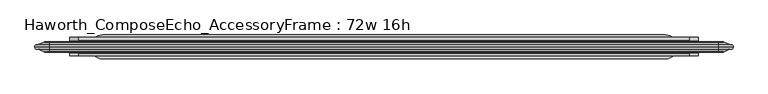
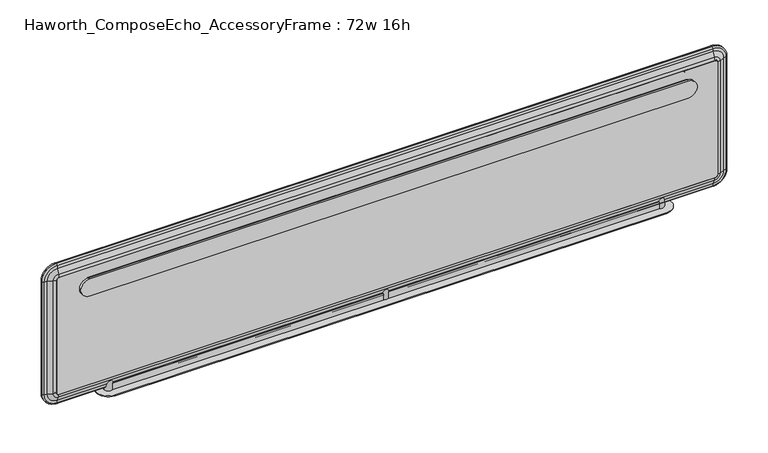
"""IFC4 building model written with IfcOpenShell, lengths in millimetres: furniture geometry, Haworth_ComposeEcho_AccessoryFrame : 72w 16h."""

from ifc_helpers import new_model, si_unit, point, frame, frame_2d, origin, place, context, project, spatial, polyline, circle_curve, ellipse_curve, trimmed, segment, composite_curve, outline, extrude, source, transform, mapped, element, save
from ifc_brep_helpers import plane_surface, cylinder_surface, revolved_surface, advanced_brep


def haworth_composeecho_accessoryframe_72w_16h_583df38f(model_context):
    return source(origin(), model_context, "Body", "SolidModel", [
        extrude(outline(composite_curve([segment(trimmed(circle_curve(frame_2d((1432.9130983, -873.8759879)), 6.3337219), [point((1439.2468202, -873.8759879))], [point((1432.9130983, -880.2097098))], False, "CARTESIAN"), True, "CONTINUOUS"), segment(polyline([(1432.9130983, -880.2097098), (1115.0680007, -880.2097098)]), True, "CONTINUOUS"), segment(trimmed(circle_curve(frame_2d((1115.0680007, -873.8597098)), 6.35), [point((1115.0680007, -880.2097098))], [point((1108.7180007, -873.8597098))], False, "CARTESIAN"), True, "CONTINUOUS"), segment(polyline([(1108.7180007, -873.8597098), (1108.7180007, 878.7402902)]), True, "CONTINUOUS"), segment(trimmed(circle_curve(frame_2d((1115.0680007, 878.7402902)), 6.35), [point((1108.7180007, 878.7402902))], [point((1115.0680007, 885.0902902))], False, "CARTESIAN"), True, "CONTINUOUS"), segment(polyline([(1115.0680007, 885.0902902), (1432.9130983, 885.0902902)]), True, "CONTINUOUS"), segment(trimmed(circle_curve(frame_2d((1432.9130983, 878.7565682)), 6.3337219), [point((1432.9130983, 885.0902902))], [point((1439.2468202, 878.7565682))], False, "CARTESIAN"), True, "CONTINUOUS"), segment(polyline([(1439.2468202, 878.7565682), (1439.2468202, -873.8759879)]), True, "CONTINUOUS")], self_intersect=False)), frame((0.0, -14.2419601, 0.0), z_axis=(0.0, 1.0, 0.0), x_axis=(0.0, 0.0, 1.0)), (0.0, 0.0, 1.0), 28.3652874),
        advanced_brep(
        [(913.9741083, 5.6620988, 1432.9130983), (878.7563745, 5.6620988, 1468.1308321), (878.7563745, 0.0, 1470.6517609), (916.495037, 0.0, 1432.9130983), (906.5453032, 6.4813873, 1432.9130983), (878.7563745, 6.4813873, 1460.7020271), (916.495037, 0.0, 1115.0680007), (913.9741083, 5.6620988, 1115.0680007), (906.5453032, 6.4813873, 1115.0680007), (878.7400964, 5.6620988, 1079.8339888), (878.7400964, 0.0, 1077.31306), (878.7400964, 6.4813873, 1087.2627938), (-873.8597098, 0.0, 1077.31306), (-873.8597098, 5.6620988, 1079.8339888), (-873.8597098, 6.4813873, 1087.2627938), (-909.0937217, 5.6620988, 1115.0680007), (-911.6146505, 0.0, 1115.0680007), (-901.6649167, 6.4813873, 1115.0680007), (-911.6146505, 0.0, 1432.9130983), (-909.0937217, 5.6620988, 1432.9130983), (-901.6649167, 6.4813873, 1432.9130983), (-873.8759879, 5.6620988, 1468.1308321), (-873.8759879, 0.0, 1470.6517609), (-873.8759879, 6.4813873, 1460.7020271), (-880.2097098, 0.0, 1115.0680007), (-880.2097098, 0.0, 1432.9130983), (-873.8759879, 0.0, 1439.2468202), (878.7563745, 0.0, 1439.2468202), (885.0900964, 0.0, 1432.9130983), (885.0900964, 0.0, 1115.0680007), (878.7400964, 0.0, 1108.7180007), (-873.8597098, 0.0, 1108.7180007), (878.7563745, 14.1233272, 1439.2468202), (885.0900964, 14.1233272, 1432.9130983), (878.7563745, 12.0676743, 1447.3253), (893.1685761, 12.0676743, 1432.9130983), (885.0900964, 14.1233272, 1115.0680007), (893.1685761, 12.0676743, 1115.0680007), (878.7400964, 14.1233272, 1108.7180007), (878.7400964, 12.0676743, 1100.6395209), (-873.8597098, 14.1233272, 1108.7180007), (-873.8597098, 12.0676743, 1100.6395209), (-880.2097098, 14.1233272, 1115.0680007), (-888.2881896, 12.0676743, 1115.0680007), (-880.2097098, 14.1233272, 1432.9130983), (-888.2881896, 12.0676743, 1432.9130983), (-873.8759879, 14.1233272, 1439.2468202), (-873.8759879, 12.0676743, 1447.3253)],
        [
            (0, 1, circle_curve(frame((878.7563745, 5.6620988, 1432.9130983), z_axis=(0.0, -1.0, 0.0), x_axis=(0.0, 0.0, 1.0)), 35.2177338)),
            (1, 2, circle_curve(frame((878.7563745, 1.6343332, 1466.7034279), z_axis=(1.0, 0.0, 0.0), x_axis=(0.0, 0.0, -1.0)), 4.2732164)),
            (2, 3, circle_curve(frame((878.7563745, 0.0, 1432.9130983), z_axis=(0.0, 1.0, 0.0), x_axis=(0.0, 0.0, 1.0)), 37.7386626)),
            (3, 0, circle_curve(frame((912.5467041, 1.6343332, 1432.9130983), z_axis=(0.0, 0.0, 1.0), x_axis=(-1.0, 0.0, 0.0)), 4.2732164)),
            (4, 5, circle_curve(frame((878.7563745, 6.4813873, 1432.9130983), z_axis=(0.0, -1.0, 0.0), x_axis=(0.0, 0.0, 1.0)), 27.7889288)),
            (5, 1),
            (0, 4),
            (3, 6),
            (6, 7, circle_curve(frame((912.5467041, 1.6343332, 1115.0680007), z_axis=(0.0, 0.0, 1.0), x_axis=(-1.0, 0.0, 0.0)), 4.2732164)),
            (7, 0),
            (7, 8),
            (8, 4),
            (9, 7, circle_curve(frame((878.7400964, 5.6620988, 1115.0680007), z_axis=(0.0, -1.0, 0.0), x_axis=(1.0, 0.0, 0.0)), 35.2340119)),
            (6, 10, circle_curve(frame((878.7400964, 0.0, 1115.0680007), z_axis=(0.0, 1.0, 0.0), x_axis=(1.0, 0.0, 0.0)), 37.7549407)),
            (10, 9, circle_curve(frame((878.7400964, 1.6343332, 1081.261393), z_axis=(1.0, 0.0, 0.0), x_axis=(0.0, 0.0, 1.0)), 4.2732164)),
            (11, 8, circle_curve(frame((878.7400964, 6.4813873, 1115.0680007), z_axis=(0.0, -1.0, 0.0), x_axis=(1.0, 0.0, 0.0)), 27.8052069)),
            (9, 11),
            (10, 12),
            (12, 13, circle_curve(frame((-873.8597098, 1.6343332, 1081.261393), z_axis=(1.0, 0.0, 0.0), x_axis=(0.0, 0.0, 1.0)), 4.2732164)),
            (13, 9),
            (13, 14),
            (14, 11),
            (15, 13, circle_curve(frame((-873.8597098, 5.6620988, 1115.0680007), z_axis=(0.0, -1.0, 0.0), x_axis=(0.0, 0.0, -1.0)), 35.2340119)),
            (12, 16, circle_curve(frame((-873.8597098, 0.0, 1115.0680007), z_axis=(0.0, 1.0, 0.0), x_axis=(0.0, 0.0, -1.0)), 37.7549407)),
            (16, 15, circle_curve(frame((-907.6663175, 1.6343332, 1115.0680007), z_axis=(0.0, 0.0, -1.0), x_axis=(1.0, 0.0, 0.0)), 4.2732164)),
            (17, 14, circle_curve(frame((-873.8597098, 6.4813873, 1115.0680007), z_axis=(0.0, -1.0, 0.0), x_axis=(0.0, 0.0, -1.0)), 27.8052069)),
            (15, 17),
            (16, 18),
            (18, 19, circle_curve(frame((-907.6663175, 1.6343332, 1432.9130983), z_axis=(0.0, 0.0, -1.0), x_axis=(1.0, 0.0, 0.0)), 4.2732164)),
            (19, 15),
            (19, 20),
            (20, 17),
            (21, 19, circle_curve(frame((-873.8759879, 5.6620988, 1432.9130983), z_axis=(0.0, -1.0, 0.0), x_axis=(-1.0, 0.0, 0.0)), 35.2177338)),
            (18, 22, circle_curve(frame((-873.8759879, 0.0, 1432.9130983), z_axis=(0.0, 1.0, 0.0), x_axis=(-1.0, 0.0, 0.0)), 37.7386626)),
            (22, 21, circle_curve(frame((-873.8759879, 1.6343332, 1466.7034279), z_axis=(-1.0, 0.0, 0.0), x_axis=(0.0, 0.0, -1.0)), 4.2732164)),
            (23, 20, circle_curve(frame((-873.8759879, 6.4813873, 1432.9130983), z_axis=(0.0, -1.0, 0.0), x_axis=(-1.0, 0.0, 0.0)), 27.7889288)),
            (21, 23),
            (22, 2),
            (1, 21),
            (24, 25),
            (25, 26, circle_curve(frame((-873.8759879, 0.0, 1432.9130983), z_axis=(0.0, 1.0, 0.0), x_axis=(-1.0, 0.0, 0.0)), 6.3337219)),
            (26, 27),
            (27, 28, circle_curve(frame((878.7563745, 0.0, 1432.9130983), z_axis=(0.0, 1.0, 0.0), x_axis=(0.0, 0.0, 1.0)), 6.3337219)),
            (28, 29),
            (29, 30, circle_curve(frame((878.7400964, 0.0, 1115.0680007), z_axis=(0.0, 1.0, 0.0), x_axis=(1.0, 0.0, 0.0)), 6.35)),
            (30, 31),
            (31, 24, circle_curve(frame((-873.8597098, 0.0, 1115.0680007), z_axis=(0.0, 1.0, 0.0), x_axis=(0.0, 0.0, -1.0)), 6.35)),
            (5, 23),
            (27, 32),
            (32, 33, circle_curve(frame((878.7563745, 14.1233272, 1432.9130983), z_axis=(0.0, 1.0, 0.0), x_axis=(0.0, 0.0, 1.0)), 6.3337219)),
            (33, 28),
            (32, 34, circle_curve(frame((878.7563745, -7.831597, 1437.960943), z_axis=(1.0, 0.0, 0.0), x_axis=(0.0, 0.0, -1.0)), 21.9925482)),
            (34, 35, circle_curve(frame((878.7563745, 12.0676743, 1432.9130983), z_axis=(0.0, 1.0, 0.0), x_axis=(0.0, 0.0, 1.0)), 14.4122017)),
            (35, 33, circle_curve(frame((883.8042192, -7.831597, 1432.9130983), z_axis=(0.0, 0.0, 1.0), x_axis=(-1.0, 0.0, 0.0)), 21.9925482)),
            (34, 5, circle_curve(frame((878.7563745, 160.3401291, 1517.1005285), z_axis=(-1.0, 0.0, 0.0), x_axis=(0.0, 0.0, -1.0)), 163.8697757)),
            (4, 35, circle_curve(frame((962.9438047, 160.3401291, 1432.9130983), z_axis=(0.0, 0.0, -1.0), x_axis=(-1.0, 0.0, 0.0)), 163.8697757)),
            (33, 36),
            (36, 29),
            (35, 37),
            (37, 36, circle_curve(frame((883.8042192, -7.831597, 1115.0680007), z_axis=(0.0, 0.0, 1.0), x_axis=(-1.0, 0.0, 0.0)), 21.9925482)),
            (8, 37, circle_curve(frame((962.9438047, 160.3401291, 1115.0680007), z_axis=(0.0, 0.0, -1.0), x_axis=(-1.0, 0.0, 0.0)), 163.8697757)),
            (36, 38, circle_curve(frame((878.7400964, 14.1233272, 1115.0680007), z_axis=(0.0, 1.0, 0.0), x_axis=(1.0, 0.0, 0.0)), 6.35)),
            (38, 30),
            (37, 39, circle_curve(frame((878.7400964, 12.0676743, 1115.0680007), z_axis=(0.0, 1.0, 0.0), x_axis=(1.0, 0.0, 0.0)), 14.4284798)),
            (39, 38, circle_curve(frame((878.7400964, -7.831597, 1110.0038779), z_axis=(1.0, 0.0, 0.0), x_axis=(0.0, 0.0, 1.0)), 21.9925482)),
            (11, 39, circle_curve(frame((878.7400964, 160.3401291, 1030.8642924), z_axis=(-1.0, 0.0, 0.0), x_axis=(0.0, 0.0, 1.0)), 163.8697757)),
            (38, 40),
            (40, 31),
            (39, 41),
            (41, 40, circle_curve(frame((-873.8597098, -7.831597, 1110.0038779), z_axis=(1.0, 0.0, 0.0), x_axis=(0.0, 0.0, 1.0)), 21.9925482)),
            (14, 41, circle_curve(frame((-873.8597098, 160.3401291, 1030.8642924), z_axis=(-1.0, 0.0, 0.0), x_axis=(0.0, 0.0, 1.0)), 163.8697757)),
            (40, 42, circle_curve(frame((-873.8597098, 14.1233272, 1115.0680007), z_axis=(0.0, 1.0, 0.0), x_axis=(0.0, 0.0, -1.0)), 6.35)),
            (42, 24),
            (41, 43, circle_curve(frame((-873.8597098, 12.0676743, 1115.0680007), z_axis=(0.0, 1.0, 0.0), x_axis=(0.0, 0.0, -1.0)), 14.4284798)),
            (43, 42, circle_curve(frame((-878.9238326, -7.831597, 1115.0680007), z_axis=(0.0, 0.0, -1.0), x_axis=(1.0, 0.0, 0.0)), 21.9925482)),
            (17, 43, circle_curve(frame((-958.0634181, 160.3401291, 1115.0680007), z_axis=(0.0, 0.0, 1.0), x_axis=(1.0, 0.0, 0.0)), 163.8697757)),
            (42, 44),
            (44, 25),
            (43, 45),
            (45, 44, circle_curve(frame((-878.9238326, -7.831597, 1432.9130983), z_axis=(0.0, 0.0, -1.0), x_axis=(1.0, 0.0, 0.0)), 21.9925482)),
            (20, 45, circle_curve(frame((-958.0634181, 160.3401291, 1432.9130983), z_axis=(0.0, 0.0, 1.0), x_axis=(1.0, 0.0, 0.0)), 163.8697757)),
            (44, 46, circle_curve(frame((-873.8759879, 14.1233272, 1432.9130983), z_axis=(0.0, 1.0, 0.0), x_axis=(-1.0, 0.0, 0.0)), 6.3337219)),
            (46, 26),
            (45, 47, circle_curve(frame((-873.8759879, 12.0676743, 1432.9130983), z_axis=(0.0, 1.0, 0.0), x_axis=(-1.0, 0.0, 0.0)), 14.4122017)),
            (47, 46, circle_curve(frame((-873.8759879, -7.831597, 1437.960943), z_axis=(-1.0, 0.0, 0.0), x_axis=(0.0, 0.0, -1.0)), 21.9925482)),
            (23, 47, circle_curve(frame((-873.8759879, 160.3401291, 1517.1005285), z_axis=(1.0, 0.0, 0.0), x_axis=(0.0, 0.0, -1.0)), 163.8697757)),
            (46, 32),
            (47, 34),
        ],
        [
            revolved_surface(trimmed(ellipse_curve(frame((878.7563745, 1.6343332, 1466.7034279), z_axis=(-1.0, 0.0, 0.0), x_axis=(0.0, 0.0, -1.0)), 4.2732164, 4.2732164), [point((878.7563745, 0.0, 1470.6517609))], [point((878.7563745, 5.6620988, 1468.1308321))], True, "CARTESIAN"), (878.7563745, 0.0, 1432.9130983), (0.0, 1.0, 0.0)),
            revolved_surface(polyline([(878.7563745, 5.6620988, 1468.1308321), (878.7563745, 6.4813873, 1460.7020271)]), (878.7563745, 0.0, 1432.9130983), (0.0, 1.0, 0.0)),
            cylinder_surface(frame((912.5467041, 1.6343332, 1432.9130983), z_axis=(0.0, 0.0, 1.0), x_axis=(-1.0, 0.0, 0.0)), 4.2732164),
            plane_surface(frame((913.9741083, 5.6620988, 1432.9130983), z_axis=(0.10962074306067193, 0.9939734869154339, 0.0), x_axis=(0.0, 0.0, -1.0))),
            revolved_surface(trimmed(ellipse_curve(frame((912.5467041, 1.6343332, 1115.0680007), z_axis=(0.0, 0.0, 1.0), x_axis=(-1.0, 0.0, 0.0)), 4.2732164, 4.2732164), [point((916.495037, 0.0, 1115.0680007))], [point((913.9741083, 5.6620988, 1115.0680007))], True, "CARTESIAN"), (878.7400964, 0.0, 1115.0680007), (0.0, 1.0, 0.0)),
            revolved_surface(polyline([(913.9741083, 5.6620988, 1115.0680007), (906.5453032, 6.4813873, 1115.0680007)]), (878.7400964, 0.0, 1115.0680007), (0.0, 1.0, 0.0)),
            cylinder_surface(frame((878.7400964, 1.6343332, 1081.261393), z_axis=(1.0, 0.0, 0.0), x_axis=(0.0, 0.0, 1.0)), 4.2732164),
            plane_surface(frame((878.7400964, 5.6620988, 1079.8339888), z_axis=(0.0, 0.9939734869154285, -0.109620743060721), x_axis=(-1.0, 0.0, 0.0))),
            revolved_surface(trimmed(ellipse_curve(frame((-873.8597098, 1.6343332, 1081.261393), z_axis=(1.0, 0.0, 0.0), x_axis=(0.0, 0.0, 1.0)), 4.2732164, 4.2732164), [point((-873.8597098, 0.0, 1077.31306))], [point((-873.8597098, 5.6620988, 1079.8339888))], True, "CARTESIAN"), (-873.8597098, 0.0, 1115.0680007), (0.0, 1.0, 0.0)),
            revolved_surface(polyline([(-873.8597098, 5.6620988, 1079.8339888), (-873.8597098, 6.4813873, 1087.2627938)]), (-873.8597098, 0.0, 1115.0680007), (0.0, 1.0, 0.0)),
            cylinder_surface(frame((-907.6663175, 1.6343332, 1115.0680007), z_axis=(0.0, 0.0, -1.0), x_axis=(1.0, 0.0, 0.0)), 4.2732164),
            plane_surface(frame((-909.0937217, 5.6620988, 1115.0680007), z_axis=(-0.10962074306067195, 0.993973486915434, 0.0), x_axis=(0.0, 0.0, 1.0))),
            revolved_surface(trimmed(ellipse_curve(frame((-907.6663175, 1.6343332, 1432.9130983), z_axis=(0.0, 0.0, -1.0), x_axis=(1.0, 0.0, 0.0)), 4.2732164, 4.2732164), [point((-911.6146505, 0.0, 1432.9130983))], [point((-909.0937217, 5.6620988, 1432.9130983))], True, "CARTESIAN"), (-873.8759879, 0.0, 1432.9130983), (0.0, 1.0, 0.0)),
            revolved_surface(polyline([(-909.0937217, 5.6620988, 1432.9130983), (-901.6649167, 6.4813873, 1432.9130983)]), (-873.8759879, 0.0, 1432.9130983), (0.0, 1.0, 0.0)),
            cylinder_surface(frame((-873.8759879, 1.6343332, 1466.7034279), z_axis=(-1.0, 0.0, 0.0), x_axis=(0.0, 0.0, -1.0)), 4.2732164),
            plane_surface(frame((-873.8759879, 0.0, 1439.2468202), z_axis=(0.0, -1.0, 0.0), x_axis=(1.0, 0.0, 0.0))),
            plane_surface(frame((-873.8759879, 5.6620988, 1468.1308321), z_axis=(0.0, 0.9939734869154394, 0.10962074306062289), x_axis=(1.0, 0.0, 0.0))),
            revolved_surface(polyline([(878.7563745, 14.1233272, 1439.2468202), (878.7563745, 0.0, 1439.2468202)]), (878.7563745, 0.0, 1432.9130983), (0.0, 1.0, 0.0)),
            revolved_surface(trimmed(ellipse_curve(frame((878.7563745, -7.831597, 1437.960943), z_axis=(-1.0, 0.0, 0.0), x_axis=(0.0, 0.0, -1.0)), 21.9925482, 21.9925482), [point((878.7563745, 12.0676743, 1447.3253))], [point((878.7563745, 14.1233272, 1439.2468202))], True, "CARTESIAN"), (878.7563745, 0.0, 1432.9130983), (0.0, 1.0, 0.0)),
            revolved_surface(trimmed(ellipse_curve(frame((878.7563745, 160.3401291, 1517.1005285), z_axis=(1.0, 0.0, 0.0), x_axis=(0.0, 0.0, -1.0)), 163.8697757, 163.8697757), [point((878.7563745, 6.4813873, 1460.7020271))], [point((878.7563745, 12.0676743, 1447.3253))], True, "CARTESIAN"), (878.7563745, 0.0, 1432.9130983), (0.0, 1.0, 0.0)),
            plane_surface(frame((885.0900964, 14.1233272, 1432.9130983), z_axis=(-1.0, 0.0, 0.0), x_axis=(0.0, 0.0, -1.0))),
            cylinder_surface(frame((883.8042192, -7.831597, 1432.9130983), z_axis=(0.0, 0.0, 1.0), x_axis=(-1.0, 0.0, 0.0)), 21.9925482),
            revolved_surface(polyline([(799.074029, 160.3401291, 1115.0680007), (799.074029, 160.3401291, 1432.9130983)]), (962.9438047, 160.3401291, 1432.9130983), (0.0, 0.0, -1.0)),
            revolved_surface(polyline([(885.0900964, 14.1233272, 1115.0680007), (885.0900964, 0.0, 1115.0680007)]), (878.7400964, 0.0, 1115.0680007), (0.0, 1.0, 0.0)),
            revolved_surface(trimmed(ellipse_curve(frame((883.8042192, -7.831597, 1115.0680007), z_axis=(0.0, 0.0, 1.0), x_axis=(-1.0, 0.0, 0.0)), 21.9925482, 21.9925482), [point((893.1685761, 12.0676743, 1115.0680007))], [point((885.0900964, 14.1233272, 1115.0680007))], True, "CARTESIAN"), (878.7400964, 0.0, 1115.0680007), (0.0, 1.0, 0.0)),
            revolved_surface(trimmed(ellipse_curve(frame((962.9438047, 160.3401291, 1115.0680007), z_axis=(0.0, 0.0, -1.0), x_axis=(-1.0, 0.0, 0.0)), 163.8697757, 163.8697757), [point((906.5453032, 6.4813873, 1115.0680007))], [point((893.1685761, 12.0676743, 1115.0680007))], True, "CARTESIAN"), (878.7400964, 0.0, 1115.0680007), (0.0, 1.0, 0.0)),
            plane_surface(frame((878.7400964, 14.1233272, 1108.7180007), z_axis=(0.0, 0.0, 1.0), x_axis=(-1.0, 0.0, 0.0))),
            cylinder_surface(frame((878.7400964, -7.831597, 1110.0038779), z_axis=(1.0, 0.0, 0.0), x_axis=(0.0, 0.0, 1.0)), 21.9925482),
            revolved_surface(polyline([(-873.8597097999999, 160.3401291, 1194.7340681), (878.7400964, 160.3401291, 1194.7340681)]), (878.7400964, 160.3401291, 1030.8642924), (-1.0, 0.0, 0.0)),
            revolved_surface(polyline([(-873.8597098, 14.1233272, 1108.7180007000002), (-873.8597098, 0.0, 1108.7180007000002)]), (-873.8597098, 0.0, 1115.0680007), (0.0, 1.0, 0.0)),
            revolved_surface(trimmed(ellipse_curve(frame((-873.8597098, -7.831597, 1110.0038779), z_axis=(1.0, 0.0, 0.0), x_axis=(0.0, 0.0, 1.0)), 21.9925482, 21.9925482), [point((-873.8597098, 12.0676743, 1100.6395209))], [point((-873.8597098, 14.1233272, 1108.7180007))], True, "CARTESIAN"), (-873.8597098, 0.0, 1115.0680007), (0.0, 1.0, 0.0)),
            revolved_surface(trimmed(ellipse_curve(frame((-873.8597098, 160.3401291, 1030.8642924), z_axis=(-1.0, 0.0, 0.0), x_axis=(0.0, 0.0, 1.0)), 163.8697757, 163.8697757), [point((-873.8597098, 6.4813873, 1087.2627938))], [point((-873.8597098, 12.0676743, 1100.6395209))], True, "CARTESIAN"), (-873.8597098, 0.0, 1115.0680007), (0.0, 1.0, 0.0)),
            plane_surface(frame((-880.2097098, 14.1233272, 1115.0680007), z_axis=(1.0, 0.0, 0.0), x_axis=(0.0, 0.0, 1.0))),
            cylinder_surface(frame((-878.9238326, -7.831597, 1115.0680007), z_axis=(0.0, 0.0, -1.0), x_axis=(1.0, 0.0, 0.0)), 21.9925482),
            revolved_surface(polyline([(-794.1936424, 160.3401291, 1432.9130983), (-794.1936424, 160.3401291, 1115.0680007)]), (-958.0634181, 160.3401291, 1115.0680007), (0.0, 0.0, 1.0)),
            revolved_surface(polyline([(-880.2097098, 14.1233272, 1432.9130983), (-880.2097098, 0.0, 1432.9130983)]), (-873.8759879, 0.0, 1432.9130983), (0.0, 1.0, 0.0)),
            revolved_surface(trimmed(ellipse_curve(frame((-878.9238326, -7.831597, 1432.9130983), z_axis=(0.0, 0.0, -1.0), x_axis=(1.0, 0.0, 0.0)), 21.9925482, 21.9925482), [point((-888.2881896, 12.0676743, 1432.9130983))], [point((-880.2097098, 14.1233272, 1432.9130983))], True, "CARTESIAN"), (-873.8759879, 0.0, 1432.9130983), (0.0, 1.0, 0.0)),
            revolved_surface(trimmed(ellipse_curve(frame((-958.0634181, 160.3401291, 1432.9130983), z_axis=(0.0, 0.0, 1.0), x_axis=(1.0, 0.0, 0.0)), 163.8697757, 163.8697757), [point((-901.6649167, 6.4813873, 1432.9130983))], [point((-888.2881896, 12.0676743, 1432.9130983))], True, "CARTESIAN"), (-873.8759879, 0.0, 1432.9130983), (0.0, 1.0, 0.0)),
            plane_surface(frame((-873.8759879, 14.1233272, 1439.2468202), z_axis=(0.0, 0.0, -1.0), x_axis=(1.0, 0.0, 0.0))),
            cylinder_surface(frame((-873.8759879, -7.831597, 1437.960943), z_axis=(-1.0, 0.0, 0.0), x_axis=(0.0, 0.0, -1.0)), 21.9925482),
            revolved_surface(polyline([(878.7563745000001, 160.3401291, 1353.2307528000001), (-873.8759879, 160.3401291, 1353.2307528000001)]), (-873.8759879, 160.3401291, 1517.1005285), (1.0, 0.0, 0.0)),
        ],
        [
            (0, [[1, 2, 3, 4]]),
            (1, [[5, 6, -1, 7]]),
            (2, [[-4, 8, 9, 10]]),
            (3, [[-7, -10, 11, 12]]),
            (4, [[13, -9, 14, 15]]),
            (5, [[16, -11, -13, 17]]),
            (6, [[-15, 18, 19, 20]]),
            (7, [[-17, -20, 21, 22]]),
            (8, [[23, -19, 24, 25]]),
            (9, [[26, -21, -23, 27]]),
            (10, [[-25, 28, 29, 30]]),
            (11, [[-27, -30, 31, 32]]),
            (12, [[33, -29, 34, 35]]),
            (13, [[36, -31, -33, 37]]),
            (14, [[-35, 38, -2, 39]]),
            (15, [[-38, -34, -28, -24, -18, -14, -8, -3], [40, 41, 42, 43, 44, 45, 46, 47]]),
            (16, [[-37, -39, -6, 48]]),
            (17, [[-43, 49, 50, 51]]),
            (18, [[-50, 52, 53, 54]]),
            (19, [[-53, 55, -5, 56]]),
            (20, [[-51, 57, 58, -44]]),
            (21, [[-54, 59, 60, -57]]),
            (22, [[-56, -12, 61, -59]]),
            (23, [[-45, -58, 62, 63]]),
            (24, [[-62, -60, 64, 65]]),
            (25, [[-64, -61, -16, 66]]),
            (26, [[-63, 67, 68, -46]]),
            (27, [[-65, 69, 70, -67]]),
            (28, [[-66, -22, 71, -69]]),
            (29, [[-47, -68, 72, 73]]),
            (30, [[-72, -70, 74, 75]]),
            (31, [[-74, -71, -26, 76]]),
            (32, [[-73, 77, 78, -40]]),
            (33, [[-75, 79, 80, -77]]),
            (34, [[-76, -32, 81, -79]]),
            (35, [[-41, -78, 82, 83]]),
            (36, [[-82, -80, 84, 85]]),
            (37, [[-84, -81, -36, 86]]),
            (38, [[-83, 87, -49, -42]]),
            (39, [[-85, 88, -52, -87]]),
            (40, [[-86, -48, -55, -88]]),
        ],
    ),
        advanced_brep(
        [(916.495037, 0.0, 1432.9130983), (878.7563745, 0.0, 1470.6517609), (878.7563745, -5.6620988, 1468.1308321), (913.9741083, -5.6620988, 1432.9130983), (878.7563745, -6.4813873, 1460.7020271), (906.5453032, -6.4813873, 1432.9130983), (913.9741083, -5.6620988, 1115.0680007), (916.495037, 0.0, 1115.0680007), (906.5453032, -6.4813873, 1115.0680007), (878.7400964, 0.0, 1077.31306), (878.7400964, -5.6620988, 1079.8339888), (878.7400964, -6.4813873, 1087.2627938), (-873.8597098, -5.6620988, 1079.8339888), (-873.8597098, 0.0, 1077.31306), (-873.8597098, -6.4813873, 1087.2627938), (-911.6146505, 0.0, 1115.0680007), (-909.0937217, -5.6620988, 1115.0680007), (-901.6649167, -6.4813873, 1115.0680007), (-909.0937217, -5.6620988, 1432.9130983), (-911.6146505, 0.0, 1432.9130983), (-901.6649167, -6.4813873, 1432.9130983), (-873.8759879, 0.0, 1470.6517609), (-873.8759879, -5.6620988, 1468.1308321), (-873.8759879, -6.4813873, 1460.7020271), (878.7563745, 0.0, 1439.2468202), (-873.8759879, 0.0, 1439.2468202), (-880.2097098, 0.0, 1432.9130983), (-880.2097098, 0.0, 1115.0680007), (-873.8597098, 0.0, 1108.7180007), (878.7400964, 0.0, 1108.7180007), (885.0900964, 0.0, 1115.0680007), (885.0900964, 0.0, 1432.9130983), (885.0900964, -14.1233272, 1432.9130983), (878.7563745, -14.1233272, 1439.2468202), (893.1685761, -12.0676743, 1432.9130983), (878.7563745, -12.0676743, 1447.3253), (885.0900964, -14.1233272, 1115.0680007), (893.1685761, -12.0676743, 1115.0680007), (878.7400964, -14.1233272, 1108.7180007), (878.7400964, -12.0676743, 1100.6395209), (-873.8597098, -14.1233272, 1108.7180007), (-873.8597098, -12.0676743, 1100.6395209), (-880.2097098, -14.1233272, 1115.0680007), (-888.2881896, -12.0676743, 1115.0680007), (-880.2097098, -14.1233272, 1432.9130983), (-888.2881896, -12.0676743, 1432.9130983), (-873.8759879, -14.1233272, 1439.2468202), (-873.8759879, -12.0676743, 1447.3253)],
        [
            (0, 1, circle_curve(frame((878.7563745, 0.0, 1432.9130983), z_axis=(0.0, -1.0, 0.0), x_axis=(0.0, 0.0, 1.0)), 37.7386626)),
            (1, 2, circle_curve(frame((878.7563745, -1.6343332, 1466.7034279), z_axis=(1.0, 0.0, 0.0), x_axis=(0.0, 0.0, 1.0)), 4.2732164)),
            (2, 3, circle_curve(frame((878.7563745, -5.6620988, 1432.9130983), z_axis=(0.0, 1.0, 0.0), x_axis=(0.0, 0.0, 1.0)), 35.2177338)),
            (3, 0, circle_curve(frame((912.5467041, -1.6343332, 1432.9130983), z_axis=(0.0, 0.0, 1.0), x_axis=(1.0, 0.0, 0.0)), 4.2732164)),
            (2, 4),
            (4, 5, circle_curve(frame((878.7563745, -6.4813873, 1432.9130983), z_axis=(0.0, 1.0, 0.0), x_axis=(0.0, 0.0, 1.0)), 27.7889288)),
            (5, 3),
            (3, 6),
            (6, 7, circle_curve(frame((912.5467041, -1.6343332, 1115.0680007), z_axis=(0.0, 0.0, 1.0), x_axis=(1.0, 0.0, 0.0)), 4.2732164)),
            (7, 0),
            (5, 8),
            (8, 6),
            (9, 7, circle_curve(frame((878.7400964, 0.0, 1115.0680007), z_axis=(0.0, -1.0, 0.0), x_axis=(1.0, 0.0, 0.0)), 37.7549407)),
            (6, 10, circle_curve(frame((878.7400964, -5.6620988, 1115.0680007), z_axis=(0.0, 1.0, 0.0), x_axis=(1.0, 0.0, 0.0)), 35.2340119)),
            (10, 9, circle_curve(frame((878.7400964, -1.6343332, 1081.261393), z_axis=(1.0, 0.0, 0.0), x_axis=(0.0, 0.0, -1.0)), 4.2732164)),
            (8, 11, circle_curve(frame((878.7400964, -6.4813873, 1115.0680007), z_axis=(0.0, 1.0, 0.0), x_axis=(1.0, 0.0, 0.0)), 27.8052069)),
            (11, 10),
            (10, 12),
            (12, 13, circle_curve(frame((-873.8597098, -1.6343332, 1081.261393), z_axis=(1.0, 0.0, 0.0), x_axis=(0.0, 0.0, -1.0)), 4.2732164)),
            (13, 9),
            (11, 14),
            (14, 12),
            (15, 13, circle_curve(frame((-873.8597098, 0.0, 1115.0680007), z_axis=(0.0, -1.0, 0.0), x_axis=(0.0, 0.0, -1.0)), 37.7549407)),
            (12, 16, circle_curve(frame((-873.8597098, -5.6620988, 1115.0680007), z_axis=(0.0, 1.0, 0.0), x_axis=(0.0, 0.0, -1.0)), 35.2340119)),
            (16, 15, circle_curve(frame((-907.6663175, -1.6343332, 1115.0680007), z_axis=(0.0, 0.0, -1.0), x_axis=(-1.0, 0.0, 0.0)), 4.2732164)),
            (14, 17, circle_curve(frame((-873.8597098, -6.4813873, 1115.0680007), z_axis=(0.0, 1.0, 0.0), x_axis=(0.0, 0.0, -1.0)), 27.8052069)),
            (17, 16),
            (16, 18),
            (18, 19, circle_curve(frame((-907.6663175, -1.6343332, 1432.9130983), z_axis=(0.0, 0.0, -1.0), x_axis=(-1.0, 0.0, 0.0)), 4.2732164)),
            (19, 15),
            (17, 20),
            (20, 18),
            (21, 19, circle_curve(frame((-873.8759879, 0.0, 1432.9130983), z_axis=(0.0, -1.0, 0.0), x_axis=(-1.0, 0.0, 0.0)), 37.7386626)),
            (18, 22, circle_curve(frame((-873.8759879, -5.6620988, 1432.9130983), z_axis=(0.0, 1.0, 0.0), x_axis=(-1.0, 0.0, 0.0)), 35.2177338)),
            (22, 21, circle_curve(frame((-873.8759879, -1.6343332, 1466.7034279), z_axis=(-1.0, 0.0, 0.0), x_axis=(0.0, 0.0, 1.0)), 4.2732164)),
            (20, 23, circle_curve(frame((-873.8759879, -6.4813873, 1432.9130983), z_axis=(0.0, 1.0, 0.0), x_axis=(-1.0, 0.0, 0.0)), 27.7889288)),
            (23, 22),
            (22, 2),
            (1, 21),
            (24, 25),
            (25, 26, circle_curve(frame((-873.8759879, 0.0, 1432.9130983), z_axis=(0.0, -1.0, 0.0), x_axis=(-1.0, 0.0, 0.0)), 6.3337219)),
            (26, 27),
            (27, 28, circle_curve(frame((-873.8597098, 0.0, 1115.0680007), z_axis=(0.0, -1.0, 0.0), x_axis=(0.0, 0.0, -1.0)), 6.35)),
            (28, 29),
            (29, 30, circle_curve(frame((878.7400964, 0.0, 1115.0680007), z_axis=(0.0, -1.0, 0.0), x_axis=(1.0, 0.0, 0.0)), 6.35)),
            (30, 31),
            (31, 24, circle_curve(frame((878.7563745, 0.0, 1432.9130983), z_axis=(0.0, -1.0, 0.0), x_axis=(0.0, 0.0, 1.0)), 6.3337219)),
            (23, 4),
            (32, 33, circle_curve(frame((878.7563745, -14.1233272, 1432.9130983), z_axis=(0.0, -1.0, 0.0), x_axis=(0.0, 0.0, 1.0)), 6.3337219)),
            (33, 24),
            (31, 32),
            (34, 35, circle_curve(frame((878.7563745, -12.0676743, 1432.9130983), z_axis=(0.0, -1.0, 0.0), x_axis=(0.0, 0.0, 1.0)), 14.4122017)),
            (35, 33, circle_curve(frame((878.7563745, 7.831597, 1437.960943), z_axis=(1.0, 0.0, 0.0), x_axis=(0.0, 0.0, 1.0)), 21.9925482)),
            (32, 34, circle_curve(frame((883.8042192, 7.831597, 1432.9130983), z_axis=(0.0, 0.0, 1.0), x_axis=(1.0, 0.0, 0.0)), 21.9925482)),
            (4, 35, circle_curve(frame((878.7563745, -160.3401291, 1517.1005285), z_axis=(-1.0, 0.0, 0.0), x_axis=(0.0, 0.0, 1.0)), 163.8697757)),
            (34, 5, circle_curve(frame((962.9438047, -160.3401291, 1432.9130983), z_axis=(0.0, 0.0, -1.0), x_axis=(1.0, 0.0, 0.0)), 163.8697757)),
            (30, 36),
            (36, 32),
            (36, 37, circle_curve(frame((883.8042192, 7.831597, 1115.0680007), z_axis=(0.0, 0.0, 1.0), x_axis=(1.0, 0.0, 0.0)), 21.9925482)),
            (37, 34),
            (37, 8, circle_curve(frame((962.9438047, -160.3401291, 1115.0680007), z_axis=(0.0, 0.0, -1.0), x_axis=(1.0, 0.0, 0.0)), 163.8697757)),
            (38, 36, circle_curve(frame((878.7400964, -14.1233272, 1115.0680007), z_axis=(0.0, -1.0, 0.0), x_axis=(1.0, 0.0, 0.0)), 6.35)),
            (29, 38),
            (39, 37, circle_curve(frame((878.7400964, -12.0676743, 1115.0680007), z_axis=(0.0, -1.0, 0.0), x_axis=(1.0, 0.0, 0.0)), 14.4284798)),
            (38, 39, circle_curve(frame((878.7400964, 7.831597, 1110.0038779), z_axis=(1.0, 0.0, 0.0), x_axis=(0.0, 0.0, -1.0)), 21.9925482)),
            (39, 11, circle_curve(frame((878.7400964, -160.3401291, 1030.8642924), z_axis=(-1.0, 0.0, 0.0), x_axis=(0.0, 0.0, -1.0)), 163.8697757)),
            (28, 40),
            (40, 38),
            (40, 41, circle_curve(frame((-873.8597098, 7.831597, 1110.0038779), z_axis=(1.0, 0.0, 0.0), x_axis=(0.0, 0.0, -1.0)), 21.9925482)),
            (41, 39),
            (41, 14, circle_curve(frame((-873.8597098, -160.3401291, 1030.8642924), z_axis=(-1.0, 0.0, 0.0), x_axis=(0.0, 0.0, -1.0)), 163.8697757)),
            (42, 40, circle_curve(frame((-873.8597098, -14.1233272, 1115.0680007), z_axis=(0.0, -1.0, 0.0), x_axis=(0.0, 0.0, -1.0)), 6.35)),
            (27, 42),
            (43, 41, circle_curve(frame((-873.8597098, -12.0676743, 1115.0680007), z_axis=(0.0, -1.0, 0.0), x_axis=(0.0, 0.0, -1.0)), 14.4284798)),
            (42, 43, circle_curve(frame((-878.9238326, 7.831597, 1115.0680007), z_axis=(0.0, 0.0, -1.0), x_axis=(-1.0, 0.0, 0.0)), 21.9925482)),
            (43, 17, circle_curve(frame((-958.0634181, -160.3401291, 1115.0680007), z_axis=(0.0, 0.0, 1.0), x_axis=(-1.0, 0.0, 0.0)), 163.8697757)),
            (26, 44),
            (44, 42),
            (44, 45, circle_curve(frame((-878.9238326, 7.831597, 1432.9130983), z_axis=(0.0, 0.0, -1.0), x_axis=(-1.0, 0.0, 0.0)), 21.9925482)),
            (45, 43),
            (45, 20, circle_curve(frame((-958.0634181, -160.3401291, 1432.9130983), z_axis=(0.0, 0.0, 1.0), x_axis=(-1.0, 0.0, 0.0)), 163.8697757)),
            (46, 44, circle_curve(frame((-873.8759879, -14.1233272, 1432.9130983), z_axis=(0.0, -1.0, 0.0), x_axis=(-1.0, 0.0, 0.0)), 6.3337219)),
            (25, 46),
            (47, 45, circle_curve(frame((-873.8759879, -12.0676743, 1432.9130983), z_axis=(0.0, -1.0, 0.0), x_axis=(-1.0, 0.0, 0.0)), 14.4122017)),
            (46, 47, circle_curve(frame((-873.8759879, 7.831597, 1437.960943), z_axis=(-1.0, 0.0, 0.0), x_axis=(0.0, 0.0, 1.0)), 21.9925482)),
            (47, 23, circle_curve(frame((-873.8759879, -160.3401291, 1517.1005285), z_axis=(1.0, 0.0, 0.0), x_axis=(0.0, 0.0, 1.0)), 163.8697757)),
            (33, 46),
            (35, 47),
        ],
        [
            revolved_surface(trimmed(ellipse_curve(frame((878.7563745, -1.6343332, 1466.7034279), z_axis=(-1.0, 0.0, 0.0), x_axis=(0.0, 0.0, 1.0)), 4.2732164, 4.2732164), [point((878.7563745, -5.6620988, 1468.1308321))], [point((878.7563745, 0.0, 1470.6517609))], True, "CARTESIAN"), (878.7563745, 0.0, 1432.9130983), (0.0, 1.0, 0.0)),
            revolved_surface(polyline([(878.7563745, -6.4813873, 1460.7020271), (878.7563745, -5.6620988, 1468.1308321)]), (878.7563745, 0.0, 1432.9130983), (0.0, 1.0, 0.0)),
            cylinder_surface(frame((912.5467041, -1.6343332, 1432.9130983), z_axis=(0.0, 0.0, 1.0), x_axis=(1.0, 0.0, 0.0)), 4.2732164),
            plane_surface(frame((906.5453032, -6.4813873, 1432.9130983), z_axis=(0.10962074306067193, -0.9939734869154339, 0.0), x_axis=(0.0, 0.0, -1.0))),
            revolved_surface(trimmed(ellipse_curve(frame((912.5467041, -1.6343332, 1115.0680007), z_axis=(0.0, 0.0, 1.0), x_axis=(1.0, 0.0, 0.0)), 4.2732164, 4.2732164), [point((913.9741083, -5.6620988, 1115.0680007))], [point((916.495037, 0.0, 1115.0680007))], True, "CARTESIAN"), (878.7400964, 0.0, 1115.0680007), (0.0, 1.0, 0.0)),
            revolved_surface(polyline([(906.5453032, -6.4813873, 1115.0680007), (913.9741083, -5.6620988, 1115.0680007)]), (878.7400964, 0.0, 1115.0680007), (0.0, 1.0, 0.0)),
            cylinder_surface(frame((878.7400964, -1.6343332, 1081.261393), z_axis=(1.0, 0.0, 0.0), x_axis=(0.0, 0.0, -1.0)), 4.2732164),
            plane_surface(frame((878.7400964, -6.4813873, 1087.2627938), z_axis=(0.0, -0.9939734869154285, -0.109620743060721), x_axis=(-1.0, 0.0, 0.0))),
            revolved_surface(trimmed(ellipse_curve(frame((-873.8597098, -1.6343332, 1081.261393), z_axis=(1.0, 0.0, 0.0), x_axis=(0.0, 0.0, -1.0)), 4.2732164, 4.2732164), [point((-873.8597098, -5.6620988, 1079.8339888))], [point((-873.8597098, 0.0, 1077.31306))], True, "CARTESIAN"), (-873.8597098, 0.0, 1115.0680007), (0.0, 1.0, 0.0)),
            revolved_surface(polyline([(-873.8597098, -6.4813873, 1087.2627938), (-873.8597098, -5.6620988, 1079.8339888)]), (-873.8597098, 0.0, 1115.0680007), (0.0, 1.0, 0.0)),
            cylinder_surface(frame((-907.6663175, -1.6343332, 1115.0680007), z_axis=(0.0, 0.0, -1.0), x_axis=(-1.0, 0.0, 0.0)), 4.2732164),
            plane_surface(frame((-901.6649167, -6.4813873, 1115.0680007), z_axis=(-0.10962074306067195, -0.993973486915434, 0.0), x_axis=(0.0, 0.0, 1.0))),
            revolved_surface(trimmed(ellipse_curve(frame((-907.6663175, -1.6343332, 1432.9130983), z_axis=(0.0, 0.0, -1.0), x_axis=(-1.0, 0.0, 0.0)), 4.2732164, 4.2732164), [point((-909.0937217, -5.6620988, 1432.9130983))], [point((-911.6146505, 0.0, 1432.9130983))], True, "CARTESIAN"), (-873.8759879, 0.0, 1432.9130983), (0.0, 1.0, 0.0)),
            revolved_surface(polyline([(-901.6649167, -6.4813873, 1432.9130983), (-909.0937217, -5.6620988, 1432.9130983)]), (-873.8759879, 0.0, 1432.9130983), (0.0, 1.0, 0.0)),
            cylinder_surface(frame((-873.8759879, -1.6343332, 1466.7034279), z_axis=(-1.0, 0.0, 0.0), x_axis=(0.0, 0.0, 1.0)), 4.2732164),
            plane_surface(frame((-873.8759879, 0.0, 1470.6517609), z_axis=(0.0, 1.0, 0.0), x_axis=(1.0, 0.0, 0.0))),
            plane_surface(frame((-873.8759879, -6.4813873, 1460.7020271), z_axis=(0.0, -0.9939734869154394, 0.10962074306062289), x_axis=(1.0, 0.0, 0.0))),
            revolved_surface(polyline([(878.7563745, 0.0, 1439.2468202), (878.7563745, -14.1233272, 1439.2468202)]), (878.7563745, 0.0, 1432.9130983), (0.0, 1.0, 0.0)),
            revolved_surface(trimmed(ellipse_curve(frame((878.7563745, 7.831597, 1437.960943), z_axis=(-1.0, 0.0, 0.0), x_axis=(0.0, 0.0, 1.0)), 21.9925482, 21.9925482), [point((878.7563745, -14.1233272, 1439.2468202))], [point((878.7563745, -12.0676743, 1447.3253))], True, "CARTESIAN"), (878.7563745, 0.0, 1432.9130983), (0.0, 1.0, 0.0)),
            revolved_surface(trimmed(ellipse_curve(frame((878.7563745, -160.3401291, 1517.1005285), z_axis=(1.0, 0.0, 0.0), x_axis=(0.0, 0.0, 1.0)), 163.8697757, 163.8697757), [point((878.7563745, -12.0676743, 1447.3253))], [point((878.7563745, -6.4813873, 1460.7020271))], True, "CARTESIAN"), (878.7563745, 0.0, 1432.9130983), (0.0, 1.0, 0.0)),
            plane_surface(frame((885.0900964, 0.0, 1432.9130983), z_axis=(-1.0, 0.0, 0.0), x_axis=(0.0, 0.0, -1.0))),
            cylinder_surface(frame((883.8042192, 7.831597, 1432.9130983), z_axis=(0.0, 0.0, 1.0), x_axis=(1.0, 0.0, 0.0)), 21.9925482),
            revolved_surface(polyline([(1126.8135803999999, -160.3401291, 1115.0680007), (1126.8135803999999, -160.3401291, 1432.9130983)]), (962.9438047, -160.3401291, 1432.9130983), (0.0, 0.0, -1.0)),
            revolved_surface(polyline([(885.0900964, 0.0, 1115.0680007), (885.0900964, -14.1233272, 1115.0680007)]), (878.7400964, 0.0, 1115.0680007), (0.0, 1.0, 0.0)),
            revolved_surface(trimmed(ellipse_curve(frame((883.8042192, 7.831597, 1115.0680007), z_axis=(0.0, 0.0, 1.0), x_axis=(1.0, 0.0, 0.0)), 21.9925482, 21.9925482), [point((885.0900964, -14.1233272, 1115.0680007))], [point((893.1685761, -12.0676743, 1115.0680007))], True, "CARTESIAN"), (878.7400964, 0.0, 1115.0680007), (0.0, 1.0, 0.0)),
            revolved_surface(trimmed(ellipse_curve(frame((962.9438047, -160.3401291, 1115.0680007), z_axis=(0.0, 0.0, -1.0), x_axis=(1.0, 0.0, 0.0)), 163.8697757, 163.8697757), [point((893.1685761, -12.0676743, 1115.0680007))], [point((906.5453032, -6.4813873, 1115.0680007))], True, "CARTESIAN"), (878.7400964, 0.0, 1115.0680007), (0.0, 1.0, 0.0)),
            plane_surface(frame((878.7400964, 0.0, 1108.7180007), z_axis=(0.0, 0.0, 1.0), x_axis=(-1.0, 0.0, 0.0))),
            cylinder_surface(frame((878.7400964, 7.831597, 1110.0038779), z_axis=(1.0, 0.0, 0.0), x_axis=(0.0, 0.0, -1.0)), 21.9925482),
            revolved_surface(polyline([(-873.8597097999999, -160.3401291, 866.9945167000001), (878.7400964, -160.3401291, 866.9945167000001)]), (878.7400964, -160.3401291, 1030.8642924), (-1.0, 0.0, 0.0)),
            revolved_surface(polyline([(-873.8597098, 0.0, 1108.7180007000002), (-873.8597098, -14.1233272, 1108.7180007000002)]), (-873.8597098, 0.0, 1115.0680007), (0.0, 1.0, 0.0)),
            revolved_surface(trimmed(ellipse_curve(frame((-873.8597098, 7.831597, 1110.0038779), z_axis=(1.0, 0.0, 0.0), x_axis=(0.0, 0.0, -1.0)), 21.9925482, 21.9925482), [point((-873.8597098, -14.1233272, 1108.7180007))], [point((-873.8597098, -12.0676743, 1100.6395209))], True, "CARTESIAN"), (-873.8597098, 0.0, 1115.0680007), (0.0, 1.0, 0.0)),
            revolved_surface(trimmed(ellipse_curve(frame((-873.8597098, -160.3401291, 1030.8642924), z_axis=(-1.0, 0.0, 0.0), x_axis=(0.0, 0.0, -1.0)), 163.8697757, 163.8697757), [point((-873.8597098, -12.0676743, 1100.6395209))], [point((-873.8597098, -6.4813873, 1087.2627938))], True, "CARTESIAN"), (-873.8597098, 0.0, 1115.0680007), (0.0, 1.0, 0.0)),
            plane_surface(frame((-880.2097098, 0.0, 1115.0680007), z_axis=(1.0, 0.0, 0.0), x_axis=(0.0, 0.0, 1.0))),
            cylinder_surface(frame((-878.9238326, 7.831597, 1115.0680007), z_axis=(0.0, 0.0, -1.0), x_axis=(-1.0, 0.0, 0.0)), 21.9925482),
            revolved_surface(polyline([(-1121.9331938, -160.3401291, 1432.9130983), (-1121.9331938, -160.3401291, 1115.0680007)]), (-958.0634181, -160.3401291, 1115.0680007), (0.0, 0.0, 1.0)),
            revolved_surface(polyline([(-880.2097098, 0.0, 1432.9130983), (-880.2097098, -14.1233272, 1432.9130983)]), (-873.8759879, 0.0, 1432.9130983), (0.0, 1.0, 0.0)),
            revolved_surface(trimmed(ellipse_curve(frame((-878.9238326, 7.831597, 1432.9130983), z_axis=(0.0, 0.0, -1.0), x_axis=(-1.0, 0.0, 0.0)), 21.9925482, 21.9925482), [point((-880.2097098, -14.1233272, 1432.9130983))], [point((-888.2881896, -12.0676743, 1432.9130983))], True, "CARTESIAN"), (-873.8759879, 0.0, 1432.9130983), (0.0, 1.0, 0.0)),
            revolved_surface(trimmed(ellipse_curve(frame((-958.0634181, -160.3401291, 1432.9130983), z_axis=(0.0, 0.0, 1.0), x_axis=(-1.0, 0.0, 0.0)), 163.8697757, 163.8697757), [point((-888.2881896, -12.0676743, 1432.9130983))], [point((-901.6649167, -6.4813873, 1432.9130983))], True, "CARTESIAN"), (-873.8759879, 0.0, 1432.9130983), (0.0, 1.0, 0.0)),
            plane_surface(frame((-873.8759879, 0.0, 1439.2468202), z_axis=(0.0, 0.0, -1.0), x_axis=(1.0, 0.0, 0.0))),
            cylinder_surface(frame((-873.8759879, 7.831597, 1437.960943), z_axis=(-1.0, 0.0, 0.0), x_axis=(0.0, 0.0, 1.0)), 21.9925482),
            revolved_surface(polyline([(878.7563745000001, -160.3401291, 1680.9703042), (-873.8759879, -160.3401291, 1680.9703042)]), (-873.8759879, -160.3401291, 1517.1005285), (1.0, 0.0, 0.0)),
        ],
        [
            (0, [[1, 2, 3, 4]]),
            (1, [[-3, 5, 6, 7]]),
            (2, [[-4, 8, 9, 10]]),
            (3, [[-7, 11, 12, -8]]),
            (4, [[13, -9, 14, 15]]),
            (5, [[-14, -12, 16, 17]]),
            (6, [[-15, 18, 19, 20]]),
            (7, [[-17, 21, 22, -18]]),
            (8, [[23, -19, 24, 25]]),
            (9, [[-24, -22, 26, 27]]),
            (10, [[-25, 28, 29, 30]]),
            (11, [[-27, 31, 32, -28]]),
            (12, [[33, -29, 34, 35]]),
            (13, [[-34, -32, 36, 37]]),
            (14, [[-35, 38, -2, 39]]),
            (15, [[-30, -33, -39, -1, -10, -13, -20, -23], [40, 41, 42, 43, 44, 45, 46, 47]]),
            (16, [[-37, 48, -5, -38]]),
            (17, [[49, 50, -47, 51]]),
            (18, [[52, 53, -49, 54]]),
            (19, [[-6, 55, -52, 56]]),
            (20, [[-51, -46, 57, 58]]),
            (21, [[-54, -58, 59, 60]]),
            (22, [[-56, -60, 61, -11]]),
            (23, [[62, -57, -45, 63]]),
            (24, [[64, -59, -62, 65]]),
            (25, [[-16, -61, -64, 66]]),
            (26, [[-63, -44, 67, 68]]),
            (27, [[-65, -68, 69, 70]]),
            (28, [[-66, -70, 71, -21]]),
            (29, [[72, -67, -43, 73]]),
            (30, [[74, -69, -72, 75]]),
            (31, [[-26, -71, -74, 76]]),
            (32, [[-73, -42, 77, 78]]),
            (33, [[-75, -78, 79, 80]]),
            (34, [[-76, -80, 81, -31]]),
            (35, [[82, -77, -41, 83]]),
            (36, [[84, -79, -82, 85]]),
            (37, [[-36, -81, -84, 86]]),
            (38, [[-83, -40, -50, 87]]),
            (39, [[-85, -87, -53, 88]]),
            (40, [[-86, -88, -55, -48]]),
        ],
    ),
        extrude(outline(composite_curve([segment(trimmed(circle_curve(frame_2d((2.4402902, 0.0)), 11.1130959), [point((-8.6728057, 0.0))], [point((13.5533861, 0.0))], False, "CARTESIAN"), True, "CONTINUOUS"), segment(trimmed(circle_curve(frame_2d((2.4402902, 0.0)), 11.1130959), [point((13.5533861, 0.0))], [point((-8.6728057, 0.0))], False, "CARTESIAN"), True, "CONTINUOUS")], self_intersect=False)), frame((0.0, 0.0, 1335.081865), z_axis=(0.0, 0.0, 1.0), x_axis=(1.0, 0.0, 0.0)), (0.0, 0.0, 1.0), 76.2),
        extrude(outline(composite_curve([segment(trimmed(circle_curve(frame_2d((2.4402902, 0.0)), 11.1130959), [point((-8.6728057, 0.0))], [point((13.5533861, 0.0))], False, "CARTESIAN"), True, "CONTINUOUS"), segment(trimmed(circle_curve(frame_2d((2.4402902, 0.0)), 11.1130959), [point((13.5533861, 0.0))], [point((-8.6728057, 0.0))], False, "CARTESIAN"), True, "CONTINUOUS")], self_intersect=False)), frame((0.0, 0.0, 1066.8), z_axis=(0.0, 0.0, 1.0), x_axis=(1.0, 0.0, 0.0)), (0.0, 0.0, 1.0), 268.281865),
        extrude(outline(composite_curve([segment(trimmed(circle_curve(frame_2d((739.0402902, 0.0)), 11.1130959), [point((727.9271943, 0.0))], [point((750.1533861, 0.0))], False, "CARTESIAN"), True, "CONTINUOUS"), segment(trimmed(circle_curve(frame_2d((739.0402902, 0.0)), 11.1130959), [point((750.1533861, 0.0))], [point((727.9271943, 0.0))], False, "CARTESIAN"), True, "CONTINUOUS")], self_intersect=False)), frame((0.0, 0.0, 1335.081865), z_axis=(0.0, 0.0, 1.0), x_axis=(1.0, 0.0, 0.0)), (0.0, 0.0, 1.0), 76.2),
        extrude(outline(composite_curve([segment(trimmed(circle_curve(frame_2d((739.0402902, 0.0)), 11.1130959), [point((727.9271943, 0.0))], [point((750.1533861, 0.0))], False, "CARTESIAN"), True, "CONTINUOUS"), segment(trimmed(circle_curve(frame_2d((739.0402902, 0.0)), 11.1130959), [point((750.1533861, 0.0))], [point((727.9271943, 0.0))], False, "CARTESIAN"), True, "CONTINUOUS")], self_intersect=False)), frame((0.0, 0.0, 1066.8), z_axis=(0.0, 0.0, 1.0), x_axis=(1.0, 0.0, 0.0)), (0.0, 0.0, 1.0), 268.281865),
        extrude(outline(composite_curve([segment(trimmed(circle_curve(frame_2d((-734.1597098, 0.0)), 11.1130959), [point((-745.2728057, 0.0))], [point((-723.0466139, 0.0))], False, "CARTESIAN"), True, "CONTINUOUS"), segment(trimmed(circle_curve(frame_2d((-734.1597098, 0.0)), 11.1130959), [point((-723.0466139, 0.0))], [point((-745.2728057, 0.0))], False, "CARTESIAN"), True, "CONTINUOUS")], self_intersect=False)), frame((0.0, 0.0, 1335.081865), z_axis=(0.0, 0.0, 1.0), x_axis=(1.0, 0.0, 0.0)), (0.0, 0.0, 1.0), 76.2),
        extrude(outline(composite_curve([segment(trimmed(circle_curve(frame_2d((-734.1597098, 0.0)), 11.1130959), [point((-745.2728057, 0.0))], [point((-723.0466139, 0.0))], False, "CARTESIAN"), True, "CONTINUOUS"), segment(trimmed(circle_curve(frame_2d((-734.1597098, 0.0)), 11.1130959), [point((-723.0466139, 0.0))], [point((-745.2728057, 0.0))], False, "CARTESIAN"), True, "CONTINUOUS")], self_intersect=False)), frame((0.0, 0.0, 1066.8), z_axis=(0.0, 0.0, 1.0), x_axis=(1.0, 0.0, 0.0)), (0.0, 0.0, 1.0), 268.281865),
        extrude(outline(polyline([(801.6766902, -16.7063446), (-796.7961098, -16.7063446), (-796.7961098, 16.7061508), (801.6766902, 16.7061508), (801.6766902, -16.7063446)])), frame((0.0, 0.0, 1365.6741697), z_axis=(0.0, 0.0, 1.0), x_axis=(1.0, 0.0, 0.0)), (0.0, 0.0, 1.0), 47.6326303),
        extrude(outline(composite_curve([segment(trimmed(circle_curve(frame_2d((1389.4904848, 801.6766902)), 23.8163152), [point((1365.6741697, 801.6766902))], [point((1413.3068, 801.6766902))], False, "CARTESIAN"), True, "CONTINUOUS"), segment(polyline([(1413.3068, 801.6766902), (1413.3068, -796.7961098)]), True, "CONTINUOUS"), segment(trimmed(circle_curve(frame_2d((1389.4904848, -796.7961098)), 23.8163152), [point((1413.3068, -796.7961098))], [point((1365.6741697, -796.7961098))], False, "CARTESIAN"), True, "CONTINUOUS"), segment(polyline([(1365.6741697, -796.7961098), (1365.6741697, 801.6766902)]), True, "CONTINUOUS")], self_intersect=False)), frame((0.0, 16.7061508, 0.0), z_axis=(0.0, 1.0, 0.0), x_axis=(0.0, 0.0, 1.0)), (0.0, 0.0, 1.0), 8.1965927),
        extrude(outline(composite_curve([segment(polyline([(1413.3068, 801.6766902), (1413.3068, -796.7961098)]), True, "CONTINUOUS"), segment(trimmed(circle_curve(frame_2d((1389.4904848, -796.7961098)), 23.8163152), [point((1413.3068, -796.7961098))], [point((1365.6741697, -796.7961098))], False, "CARTESIAN"), True, "CONTINUOUS"), segment(polyline([(1365.6741697, -796.7961098), (1365.6741697, 801.6766902)]), True, "CONTINUOUS"), segment(trimmed(circle_curve(frame_2d((1389.4904848, 801.6766902)), 23.8163152), [point((1365.6741697, 801.6766902))], [point((1413.3068, 801.6766902))], False, "CARTESIAN"), True, "CONTINUOUS")], self_intersect=False)), frame((0.0, -23.0186384, 0.0), z_axis=(0.0, 1.0, 0.0), x_axis=(0.0, 0.0, 1.0)), (0.0, 0.0, 1.0), 6.3122938),
        extrude(outline(polyline([(739.0402902, 9.5195424), (739.0402902, -9.5195424), (-734.1597098, -9.5195424), (-734.1597098, 9.5195424), (739.0402902, 9.5195424)])), frame((0.0, 0.0, 1068.8319015), z_axis=(0.0, 0.0, 1.0), x_axis=(1.0, 0.0, 0.0)), (0.0, 0.0, 1.0), 19.0552873),
        extrude(outline(composite_curve([segment(trimmed(circle_curve(frame_2d((-734.1597098, 0.0027988)), 31.3917195), [point((-734.1597098, -31.3889207))], [point((-734.1597098, 31.3945183))], False, "CARTESIAN"), True, "CONTINUOUS"), segment(polyline([(-734.1597098, 31.3945183), (739.0402902, 31.3945183)]), True, "CONTINUOUS"), segment(trimmed(circle_curve(frame_2d((739.0402902, 0.0027988)), 31.3917195), [point((739.0402902, 31.3945183))], [point((739.0402902, -31.3889207))], False, "CARTESIAN"), True, "CONTINUOUS"), segment(polyline([(739.0402902, -31.3889207), (-734.1597098, -31.3889207)]), True, "CONTINUOUS")], self_intersect=False)), frame((0.0, 0.0, 1066.8), z_axis=(0.0, 0.0, 1.0), x_axis=(1.0, 0.0, 0.0)), (0.0, 0.0, 1.0), 2.0345959),
    ])


if __name__ == "__main__":
    model = new_model("IFC4")
    model_context = context("Model", 3, world=origin())
    ifc_project = project(units=[si_unit("LENGTHUNIT", "METRE", prefix="MILLI")], contexts=[model_context])
    site = spatial("IfcSite", under=ifc_project)
    building = spatial("IfcBuilding", under=site)
    placement = place(None, origin())
    haworth_composeecho_accessoryframe_72w_16h_shape = haworth_composeecho_accessoryframe_72w_16h_583df38f(model_context)
    element("IfcFurniture", 1, ObjectType="Haworth_ComposeEcho_AccessoryFrame : 72w 16h", at=placement, inside=building, context=model_context, shape_type="MappedRepresentation", body=[
        mapped(haworth_composeecho_accessoryframe_72w_16h_shape, transform((0.0, 0.0, 0.0), x_axis=(1.0, 0.0, 0.0), y_axis=(0.0, 1.0, 0.0), z_axis=(0.0, 0.0, 1.0))),
    ])
    save(model, "model.ifc")
